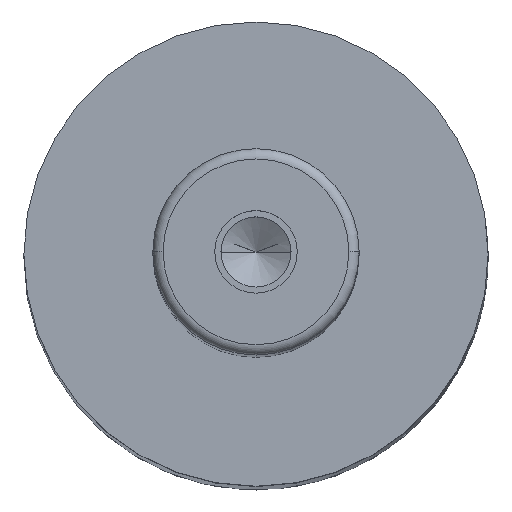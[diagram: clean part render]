
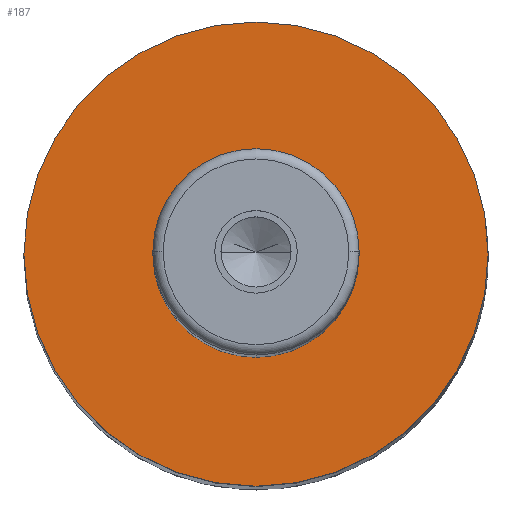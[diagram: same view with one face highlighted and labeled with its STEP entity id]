
A CAD part, top view. The second image highlights one B-rep face of the part: STEP entity #187.
In plain terms, the highlighted planar face has unit normal (0, 0, 1).
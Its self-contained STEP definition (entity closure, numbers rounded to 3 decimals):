
#107=PLANE('',#989);
#130=FACE_BOUND('',#298,.T.);
#131=FACE_BOUND('',#299,.T.);
#187=ADVANCED_FACE('',(#130,#131),#107,.T.);
#298=EDGE_LOOP('',(#463,#464));
#299=EDGE_LOOP('',(#465,#466));
#367=CIRCLE('',#983,10.);
#368=CIRCLE('',#985,10.);
#369=CIRCLE('',#987,22.5);
#370=CIRCLE('',#988,22.5);
#463=ORIENTED_EDGE('',*,*,#758,.F.);
#464=ORIENTED_EDGE('',*,*,#759,.F.);
#465=ORIENTED_EDGE('',*,*,#757,.T.);
#466=ORIENTED_EDGE('',*,*,#755,.T.);
#670=VERTEX_POINT('',#1421);
#671=VERTEX_POINT('',#1423);
#672=VERTEX_POINT('',#1429);
#673=VERTEX_POINT('',#1430);
#755=EDGE_CURVE('',#671,#670,#367,.T.);
#757=EDGE_CURVE('',#670,#671,#368,.T.);
#758=EDGE_CURVE('',#672,#673,#369,.T.);
#759=EDGE_CURVE('',#673,#672,#370,.T.);
#983=AXIS2_PLACEMENT_3D('',#1422,#1137,#1138);
#985=AXIS2_PLACEMENT_3D('',#1426,#1142,#1143);
#987=AXIS2_PLACEMENT_3D('',#1428,#1146,#1147);
#988=AXIS2_PLACEMENT_3D('',#1431,#1148,#1149);
#989=AXIS2_PLACEMENT_3D('',#1432,#1150,#1151);
#1137=DIRECTION('',(0.,0.,-1.));
#1138=DIRECTION('',(0.,1.,0.));
#1142=DIRECTION('',(0.,0.,-1.));
#1143=DIRECTION('',(0.,-1.,0.));
#1146=DIRECTION('',(0.,0.,-1.));
#1147=DIRECTION('',(0.,1.,0.));
#1148=DIRECTION('',(0.,0.,-1.));
#1149=DIRECTION('',(0.,-1.,0.));
#1150=DIRECTION('',(0.,0.,1.));
#1151=DIRECTION('',(0.,-1.,0.));
#1421=CARTESIAN_POINT('',(-10.,0.,208.));
#1422=CARTESIAN_POINT('',(0.,0.,208.));
#1423=CARTESIAN_POINT('',(10.,0.,208.));
#1426=CARTESIAN_POINT('',(0.,0.,208.));
#1428=CARTESIAN_POINT('',(0.,0.,208.));
#1429=CARTESIAN_POINT('',(22.5,0.,208.));
#1430=CARTESIAN_POINT('',(-22.5,0.,208.));
#1431=CARTESIAN_POINT('',(0.,0.,208.));
#1432=CARTESIAN_POINT('',(0.,0.,208.));
